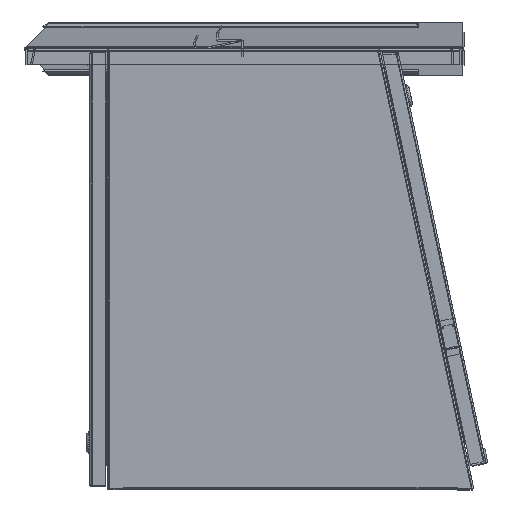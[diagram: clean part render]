
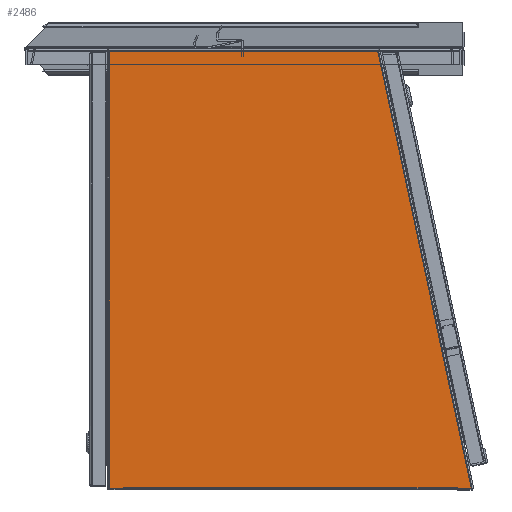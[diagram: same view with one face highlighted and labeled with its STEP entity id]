
A CAD part, left-side view. The second image highlights one B-rep face of the part: STEP entity #2486.
In plain terms, the highlighted planar face has unit normal (-1, 0, 0) as drawn and (0, 0, -1) by its records, which use the part's own axes.
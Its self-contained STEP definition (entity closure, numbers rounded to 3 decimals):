
#2486 = ADVANCED_FACE( '', ( #3509 ), #3510, .T. );
#3509 = FACE_OUTER_BOUND( '', #5545, .T. );
#3510 = PLANE( '', #5546 );
#5545 = EDGE_LOOP( '', ( #9678, #9679, #9680, #9681, #9682, #9683, #9684, #9685, #9686, #9687 ) );
#5546 = AXIS2_PLACEMENT_3D( '', #9688, #9689, #9690 );
#9678 = ORIENTED_EDGE( '', *, *, #15755, .T. );
#9679 = ORIENTED_EDGE( '', *, *, #15652, .F. );
#9680 = ORIENTED_EDGE( '', *, *, #15640, .T. );
#9681 = ORIENTED_EDGE( '', *, *, #15756, .T. );
#9682 = ORIENTED_EDGE( '', *, *, #15754, .F. );
#9683 = ORIENTED_EDGE( '', *, *, #15757, .F. );
#9684 = ORIENTED_EDGE( '', *, *, #15758, .F. );
#9685 = ORIENTED_EDGE( '', *, *, #15730, .F. );
#9686 = ORIENTED_EDGE( '', *, *, #15642, .F. );
#9687 = ORIENTED_EDGE( '', *, *, #15759, .F. );
#9688 = CARTESIAN_POINT( '', ( -211.138, -252.171, 0. ) );
#9689 = DIRECTION( '', ( 0., 0., -1. ) );
#9690 = DIRECTION( '', ( 1., 0., 0. ) );
#15640 = EDGE_CURVE( '', #17769, #17773, #17775, .T. );
#15642 = EDGE_CURVE( '', #17777, #17779, #17780, .T. );
#15652 = EDGE_CURVE( '', #17769, #17792, #17798, .T. );
#15730 = EDGE_CURVE( '', #17779, #17925, #17928, .T. );
#15754 = EDGE_CURVE( '', #17960, #17956, #17962, .T. );
#15755 = EDGE_CURVE( '', #17963, #17792, #17964, .T. );
#15756 = EDGE_CURVE( '', #17773, #17956, #17965, .T. );
#15757 = EDGE_CURVE( '', #17966, #17960, #17967, .T. );
#15758 = EDGE_CURVE( '', #17925, #17966, #17968, .T. );
#15759 = EDGE_CURVE( '', #17963, #17777, #17969, .T. );
#17769 = VERTEX_POINT( '', #21205 );
#17773 = VERTEX_POINT( '', #21211 );
#17775 = LINE( '', #21214, #21215 );
#17777 = VERTEX_POINT( '', #21217 );
#17779 = VERTEX_POINT( '', #21220 );
#17780 = LINE( '', #21221, #21222 );
#17792 = VERTEX_POINT( '', #21238 );
#17798 = LINE( '', #21245, #21246 );
#17925 = VERTEX_POINT( '', #21493 );
#17928 = LINE( '', #21506, #21507 );
#17956 = VERTEX_POINT( '', #21559 );
#17960 = VERTEX_POINT( '', #21565 );
#17962 = LINE( '', #21568, #21569 );
#17963 = VERTEX_POINT( '', #21570 );
#17964 = LINE( '', #21571, #21572 );
#17965 = LINE( '', #21573, #21574 );
#17966 = VERTEX_POINT( '', #21575 );
#17967 = LINE( '', #21576, #21577 );
#17968 = LINE( '', #21578, #21579 );
#17969 = LINE( '', #21580, #21581 );
#21205 = CARTESIAN_POINT( '', ( -191.904, -251.257, 0. ) );
#21211 = CARTESIAN_POINT( '', ( -192.666, -251.257, 0. ) );
#21214 = CARTESIAN_POINT( '', ( -192.666, -251.257, 0. ) );
#21215 = VECTOR( '', #26969, 1000. );
#21217 = CARTESIAN_POINT( '', ( 192.728, -252.171, 0. ) );
#21220 = CARTESIAN_POINT( '', ( 208.394, -252.171, 0. ) );
#21221 = CARTESIAN_POINT( '', ( -211.138, -252.171, 0. ) );
#21222 = VECTOR( '', #26971, 1000. );
#21238 = CARTESIAN_POINT( '', ( 191.966, -251.257, 0. ) );
#21245 = CARTESIAN_POINT( '', ( -191.904, -251.257, 0. ) );
#21246 = VECTOR( '', #26989, 1000. );
#21493 = CARTESIAN_POINT( '', ( 208.394, 252.171, 0. ) );
#21506 = CARTESIAN_POINT( '', ( 208.394, -252.171, 0. ) );
#21507 = VECTOR( '', #27060, 1000. );
#21559 = CARTESIAN_POINT( '', ( -192.666, -252.171, 0. ) );
#21565 = CARTESIAN_POINT( '', ( -208.332, -252.171, 0. ) );
#21568 = CARTESIAN_POINT( '', ( -211.138, -252.171, 0. ) );
#21569 = VECTOR( '', #27083, 1000. );
#21570 = CARTESIAN_POINT( '', ( 192.728, -251.257, 0. ) );
#21571 = CARTESIAN_POINT( '', ( -192.666, -251.257, 0. ) );
#21572 = VECTOR( '', #27084, 1000. );
#21573 = CARTESIAN_POINT( '', ( -192.666, -252.171, 0. ) );
#21574 = VECTOR( '', #27085, 1000. );
#21575 = CARTESIAN_POINT( '', ( -100.382, 252.171, 0. ) );
#21576 = CARTESIAN_POINT( '', ( -100.382, 252.171, 0. ) );
#21577 = VECTOR( '', #27086, 1000. );
#21578 = CARTESIAN_POINT( '', ( 211.138, 252.171, 0. ) );
#21579 = VECTOR( '', #27087, 1000. );
#21580 = CARTESIAN_POINT( '', ( 192.728, -252.171, 0. ) );
#21581 = VECTOR( '', #27088, 1000. );
#26969 = DIRECTION( '', ( -1., 0., 0. ) );
#26971 = DIRECTION( '', ( 1., 0., 0. ) );
#26989 = DIRECTION( '', ( 1., 0., 0. ) );
#27060 = DIRECTION( '', ( 0., 1., 0. ) );
#27083 = DIRECTION( '', ( 1., 0., 0. ) );
#27084 = DIRECTION( '', ( -1., 0., 0. ) );
#27085 = DIRECTION( '', ( 0., -1., 0. ) );
#27086 = DIRECTION( '', ( -0.209, -0.978, 0. ) );
#27087 = DIRECTION( '', ( -1., 0., 0. ) );
#27088 = DIRECTION( '', ( 0., -1., 0. ) );
